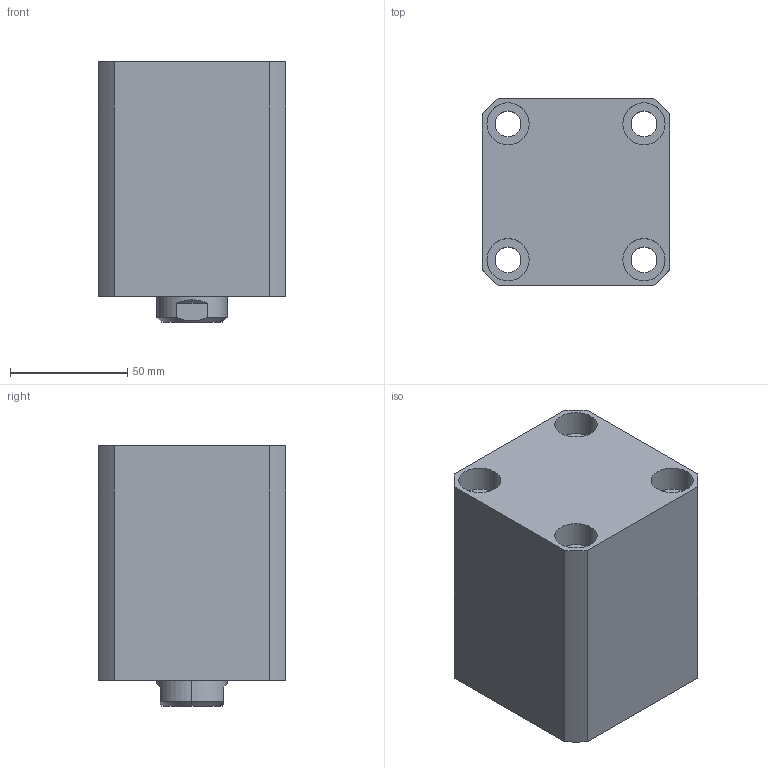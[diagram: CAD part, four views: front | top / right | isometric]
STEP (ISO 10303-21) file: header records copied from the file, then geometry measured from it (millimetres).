
FILE_DESCRIPTION (( 'STEP AP203' ), '1' );
FILE_NAME ('CHTB-SD50-40N.STEP', '2018-05-18T12:28:52', ( '' ), ( '' ), 'SwSTEP 2.0', 'SolidWorks 2015', '' );
FILE_SCHEMA (( 'CONFIG_CONTROL_DESIGN' ));
Length unit declared in the file: millimetre
Products named in the file (4): CHTB-SD50-40N; 活塞杆SD50-40N; CHTM-SD50QG; 掛极SD50-40N
Assembly tree (3 placements, depth 2):
  CHTB-SD50-40N
    掛极SD50-40N
    活塞杆SD50-40N
    CHTM-SD50QG
Bounding box: 80 x 80 x 111 mm (x, y, z)
Volume: 521099.6 mm3; surface area: 106106.7 mm2
Topology: 3 solids, 3 shells, 194 faces, 499 edges, 330 vertices
Faces by surface type: cylinder 104, plane 39, cone 21, torus 16, bspline 14
Entity records: 10789 total; most frequent: CARTESIAN_POINT 5840, ORIENTED_EDGE 986, DIRECTION 914, EDGE_CURVE 493, AXIS2_PLACEMENT_3D 383, VERTEX_POINT 330, EDGE_LOOP 233, CIRCLE 197
